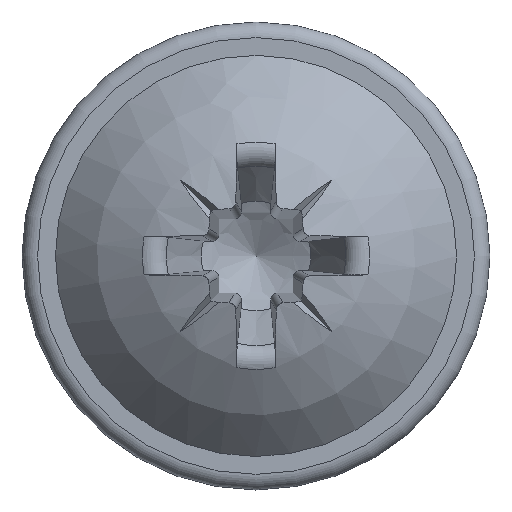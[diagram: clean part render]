
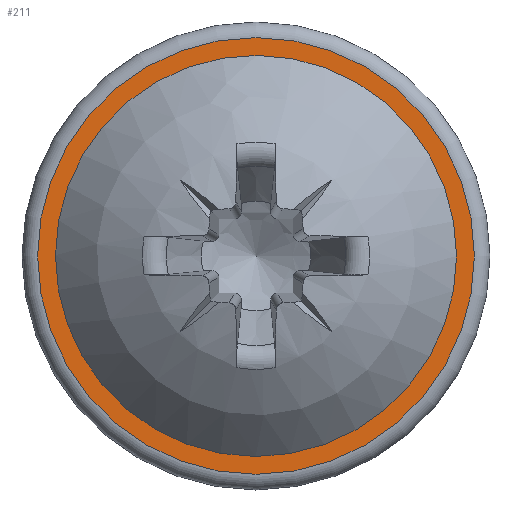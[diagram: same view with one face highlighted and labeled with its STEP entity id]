
A CAD part, top view. The second image highlights one B-rep face of the part: STEP entity #211.
In plain terms, the highlighted planar face has unit normal (0, 0, 1).
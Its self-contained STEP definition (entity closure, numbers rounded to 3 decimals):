
#137=PLANE('',#1203);
#192=FACE_BOUND('',#349,.T.);
#193=FACE_BOUND('',#350,.T.);
#211=ADVANCED_FACE('',(#192,#193),#137,.F.);
#349=EDGE_LOOP('',(#532));
#350=EDGE_LOOP('',(#533));
#415=CIRCLE('',#1159,4.286);
#451=CIRCLE('',#1202,4.667);
#532=ORIENTED_EDGE('',*,*,#975,.T.);
#533=ORIENTED_EDGE('',*,*,#921,.F.);
#808=VERTEX_POINT('',#1768);
#859=VERTEX_POINT('',#2225);
#921=EDGE_CURVE('',#808,#808,#415,.T.);
#975=EDGE_CURVE('',#859,#859,#451,.T.);
#1159=AXIS2_PLACEMENT_3D('',#1767,#1268,#1269);
#1202=AXIS2_PLACEMENT_3D('',#2224,#1354,#1355);
#1203=AXIS2_PLACEMENT_3D('',#2226,#1356,#1357);
#1268=DIRECTION('',(0.,0.,1.));
#1269=DIRECTION('',(1.,0.,0.));
#1354=DIRECTION('',(0.,0.,1.));
#1355=DIRECTION('',(-1.,0.,0.));
#1356=DIRECTION('',(0.,0.,-1.));
#1357=DIRECTION('',(-1.,0.,0.));
#1767=CARTESIAN_POINT('',(0.,0.,1.1));
#1768=CARTESIAN_POINT('',(4.286,0.,1.1));
#2224=CARTESIAN_POINT('',(0.,0.,1.1));
#2225=CARTESIAN_POINT('',(-4.667,0.,1.1));
#2226=CARTESIAN_POINT('',(0.,5.,1.1));
